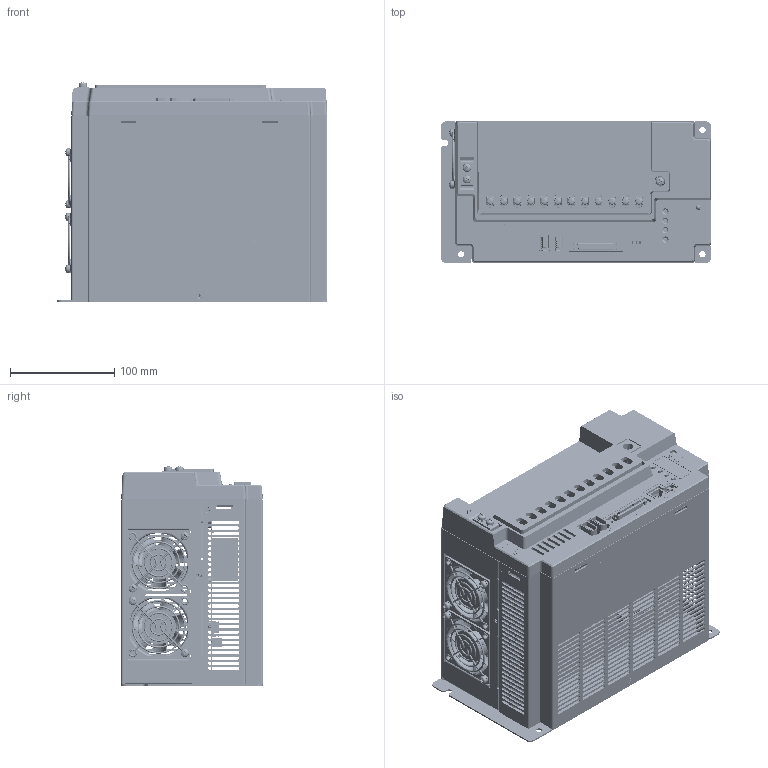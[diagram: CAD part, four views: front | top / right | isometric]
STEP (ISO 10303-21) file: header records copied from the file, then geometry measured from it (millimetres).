
FILE_DESCRIPTION((''),'2;1');
FILE_NAME('C:\Documents and Settings\11254\桌面\123456\SDH-500-700A2.stp','2015-07-23T14:05:11',('11254'),(''),'Autodesk Inventor 2008','Autodesk Inventor 2008','');
FILE_SCHEMA(('AUTOMOTIVE_DESIGN { 1 0 10303 214 1 1 1 1 }'));
Length unit declared in the file: millimetre
Products named in the file (1): SDH-500-700A2
Bounding box: 260 x 136 x 210.76 mm (x, y, z)
Surface area: 736544.3 mm2
Topology: 2 solids, 3 shells, 13712 faces, 38953 edges, 25780 vertices
Faces by surface type: plane 10130, cylinder 2410, bspline 786, cone 231, torus 123, sphere 32
Full cylindrical faces by diameter (mm): 0.317 x6, 0.318 x10, 0.35 x14, 0.381 x3, 0.425 x6, 0.44 x28, 0.6 x24, 0.738 x1, 0.822 x1, 0.9 x56, 1.5 x16, 1.65 x32, 2 x4, 2.4 x1, 2.6 x2, 3 x28, 3.2 x14, 3.25 x24, 3.571 x3, 3.621 x4, 4 x45, 4.2 x6, 4.3 x23, 4.5 x3, 4.7 x1, 5 x1, 5.05 x24, 5.164 x1, 5.2 x9, 5.3 x2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
Entity records: 453758 total; most frequent: CARTESIAN_POINT 100789, ORIENTED_EDGE 76216, DIRECTION 66608, EDGE_CURVE 38108, VECTOR 30164, LINE 30164, VERTEX_POINT 25556, AXIS2_PLACEMENT_3D 18222
